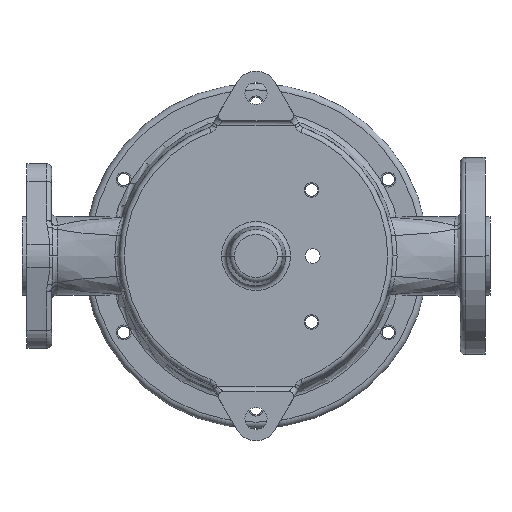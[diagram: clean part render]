
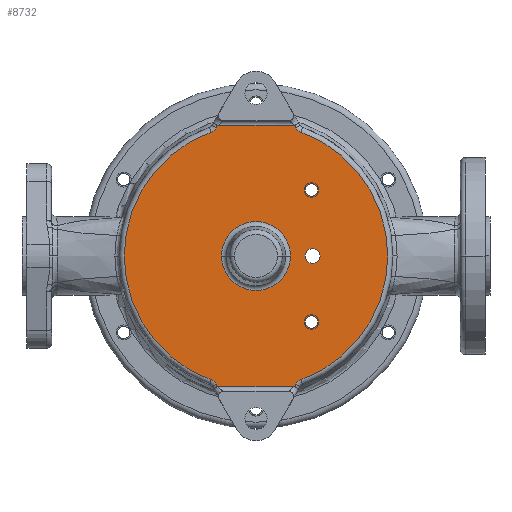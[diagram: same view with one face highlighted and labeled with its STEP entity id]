
A CAD part, left-side view. The second image highlights one B-rep face of the part: STEP entity #8732.
In plain terms, the highlighted planar face has unit normal (-1, 0, 0).
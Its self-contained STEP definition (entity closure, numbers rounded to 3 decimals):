
#1165=CARTESIAN_POINT('',(-55.,0.,0.));
#1166=DIRECTION('',(1.,0.,0.));
#1167=DIRECTION('',(0.,1.,0.));
#1168=AXIS2_PLACEMENT_3D('',#1165,#1166,#1167);
#1170=CARTESIAN_POINT('',(-55.,0.,0.));
#1171=DIRECTION('',(1.,0.,0.));
#1172=DIRECTION('',(0.,-1.,0.));
#1173=AXIS2_PLACEMENT_3D('',#1170,#1171,#1172);
#1175=DIRECTION('',(0.,1.,0.));
#1176=VECTOR('',#1175,31.177);
#1177=CARTESIAN_POINT('',(-55.,-15.588,-53.));
#1178=LINE('',#1177,#1176);
#1179=DIRECTION('',(0.,-0.5,-0.866));
#1180=VECTOR('',#1179,1.088);
#1181=CARTESIAN_POINT('',(-55.,16.133,-52.058));
#1182=LINE('',#1181,#1180);
#1183=CARTESIAN_POINT('',(-55.,19.597,-54.058));
#1184=DIRECTION('',(1.,0.,0.));
#1185=DIRECTION('',(0.,-0.341,0.94));
#1186=AXIS2_PLACEMENT_3D('',#1183,#1184,#1185);
#1188=CARTESIAN_POINT('',(-55.,19.597,54.058));
#1189=DIRECTION('',(1.,0.,0.));
#1190=DIRECTION('',(0.,-0.866,-0.5));
#1191=AXIS2_PLACEMENT_3D('',#1188,#1189,#1190);
#1193=DIRECTION('',(0.,0.5,-0.866));
#1194=VECTOR('',#1193,1.088);
#1195=CARTESIAN_POINT('',(-55.,15.588,53.));
#1196=LINE('',#1195,#1194);
#1197=DIRECTION('',(0.,-1.,0.));
#1198=VECTOR('',#1197,31.177);
#1199=CARTESIAN_POINT('',(-55.,15.588,53.));
#1200=LINE('',#1199,#1198);
#1201=DIRECTION('',(0.,0.5,0.866));
#1202=VECTOR('',#1201,1.088);
#1203=CARTESIAN_POINT('',(-55.,-16.133,52.058));
#1204=LINE('',#1203,#1202);
#1205=CARTESIAN_POINT('',(-55.,-19.597,54.058));
#1206=DIRECTION('',(1.,0.,0.));
#1207=DIRECTION('',(0.,0.341,-0.94));
#1208=AXIS2_PLACEMENT_3D('',#1205,#1206,#1207);
#1210=CARTESIAN_POINT('',(-55.,-19.597,-54.058));
#1211=DIRECTION('',(1.,0.,0.));
#1212=DIRECTION('',(0.,0.866,0.5));
#1213=AXIS2_PLACEMENT_3D('',#1210,#1211,#1212);
#1215=DIRECTION('',(0.,-0.5,0.866));
#1216=VECTOR('',#1215,1.088);
#1217=CARTESIAN_POINT('',(-55.,-15.588,-53.));
#1218=LINE('',#1217,#1216);
#1219=CARTESIAN_POINT('',(-55.,-22.498,-26.812));
#1220=DIRECTION('',(-1.,0.,0.));
#1221=DIRECTION('',(0.,1.,0.));
#1222=AXIS2_PLACEMENT_3D('',#1219,#1220,#1221);
#1224=CARTESIAN_POINT('',(-55.,-22.498,-26.812));
#1225=DIRECTION('',(-1.,0.,0.));
#1226=DIRECTION('',(0.,-1.,0.));
#1227=AXIS2_PLACEMENT_3D('',#1224,#1225,#1226);
#1229=CARTESIAN_POINT('',(-55.,-22.498,26.812));
#1230=DIRECTION('',(-1.,0.,0.));
#1231=DIRECTION('',(0.,-0.174,-0.985));
#1232=AXIS2_PLACEMENT_3D('',#1229,#1230,#1231);
#1234=CARTESIAN_POINT('',(-55.,-22.498,26.812));
#1235=DIRECTION('',(-1.,0.,0.));
#1236=DIRECTION('',(0.,0.174,0.985));
#1237=AXIS2_PLACEMENT_3D('',#1234,#1235,#1236);
#1239=CARTESIAN_POINT('',(-55.,-23.,0.));
#1240=DIRECTION('',(1.,0.,0.));
#1241=DIRECTION('',(0.,1.,0.));
#1242=AXIS2_PLACEMENT_3D('',#1239,#1240,#1241);
#1244=CARTESIAN_POINT('',(-55.,-23.,0.));
#1245=DIRECTION('',(1.,0.,0.));
#1246=DIRECTION('',(0.,-1.,0.));
#1247=AXIS2_PLACEMENT_3D('',#1244,#1245,#1246);
#1396=CARTESIAN_POINT('',(-55.,0.,0.));
#1397=DIRECTION('',(-1.,0.,0.));
#1398=DIRECTION('',(0.,-0.341,-0.94));
#1399=AXIS2_PLACEMENT_3D('',#1396,#1397,#1398);
#1590=CARTESIAN_POINT('',(-55.,0.,0.));
#1591=DIRECTION('',(-1.,0.,0.));
#1592=DIRECTION('',(0.,0.341,0.94));
#1593=AXIS2_PLACEMENT_3D('',#1590,#1591,#1592);
#6233=CARTESIAN_POINT('',(-55.,-20.,0.));
#6234=CARTESIAN_POINT('',(-55.,-26.,0.));
#6235=VERTEX_POINT('',#6233);
#6236=VERTEX_POINT('',#6234);
#6241=CARTESIAN_POINT('',(-55.,-19.998,-26.812));
#6242=CARTESIAN_POINT('',(-55.,-24.998,-26.812));
#6243=VERTEX_POINT('',#6241);
#6244=VERTEX_POINT('',#6242);
#6249=CARTESIAN_POINT('',(-55.,-22.932,24.35));
#6250=CARTESIAN_POINT('',(-55.,-22.063,29.274));
#6251=VERTEX_POINT('',#6249);
#6252=VERTEX_POINT('',#6250);
#6277=CARTESIAN_POINT('',(-55.,13.995,0.));
#6278=CARTESIAN_POINT('',(-55.,-13.995,0.));
#6279=VERTEX_POINT('',#6277);
#6280=VERTEX_POINT('',#6278);
#6281=CARTESIAN_POINT('',(-55.,-15.588,-53.));
#6282=CARTESIAN_POINT('',(-55.,15.588,-53.));
#6283=VERTEX_POINT('',#6281);
#6284=VERTEX_POINT('',#6282);
#6293=CARTESIAN_POINT('',(-55.,16.133,-52.058));
#6294=VERTEX_POINT('',#6293);
#6295=CARTESIAN_POINT('',(-55.,18.233,-50.297));
#6296=VERTEX_POINT('',#6295);
#6303=CARTESIAN_POINT('',(-55.,16.133,52.058));
#6304=CARTESIAN_POINT('',(-55.,18.233,50.297));
#6305=VERTEX_POINT('',#6303);
#6306=VERTEX_POINT('',#6304);
#6309=CARTESIAN_POINT('',(-55.,15.588,53.));
#6310=VERTEX_POINT('',#6309);
#6313=CARTESIAN_POINT('',(-55.,-15.588,53.));
#6314=VERTEX_POINT('',#6313);
#6319=CARTESIAN_POINT('',(-55.,-16.133,-52.058));
#6320=VERTEX_POINT('',#6319);
#6325=CARTESIAN_POINT('',(-55.,-18.233,-50.297));
#6326=VERTEX_POINT('',#6325);
#6333=CARTESIAN_POINT('',(-55.,-18.233,50.297));
#6334=CARTESIAN_POINT('',(-55.,-16.133,52.058));
#6335=VERTEX_POINT('',#6333);
#6336=VERTEX_POINT('',#6334);
#8678=CARTESIAN_POINT('',(-55.,0.,0.));
#8679=DIRECTION('',(1.,0.,0.));
#8680=DIRECTION('',(0.,-1.,0.));
#8681=AXIS2_PLACEMENT_3D('',#8678,#8679,#8680);
#8682=PLANE('',#8681);
#8684=ORIENTED_EDGE('',*,*,#8683,.T.);
#8686=ORIENTED_EDGE('',*,*,#8685,.F.);
#8688=ORIENTED_EDGE('',*,*,#8687,.F.);
#8690=ORIENTED_EDGE('',*,*,#8689,.F.);
#8692=ORIENTED_EDGE('',*,*,#8691,.F.);
#8694=ORIENTED_EDGE('',*,*,#8693,.F.);
#8696=ORIENTED_EDGE('',*,*,#8695,.T.);
#8698=ORIENTED_EDGE('',*,*,#8697,.F.);
#8700=ORIENTED_EDGE('',*,*,#8699,.F.);
#8702=ORIENTED_EDGE('',*,*,#8701,.F.);
#8704=ORIENTED_EDGE('',*,*,#8703,.F.);
#8706=ORIENTED_EDGE('',*,*,#8705,.F.);
#8707=EDGE_LOOP('',(#8684,#8686,#8688,#8690,#8692,#8694,#8696,#8698,#8700,#8702,
#8704,#8706));
#8708=FACE_OUTER_BOUND('',#8707,.F.);
#8710=ORIENTED_EDGE('',*,*,#8709,.F.);
#8712=ORIENTED_EDGE('',*,*,#8711,.F.);
#8713=EDGE_LOOP('',(#8710,#8712));
#8714=FACE_BOUND('',#8713,.F.);
#8715=ORIENTED_EDGE('',*,*,#8668,.T.);
#8717=ORIENTED_EDGE('',*,*,#8716,.T.);
#8718=EDGE_LOOP('',(#8715,#8717));
#8719=FACE_BOUND('',#8718,.F.);
#8721=ORIENTED_EDGE('',*,*,#8720,.T.);
#8723=ORIENTED_EDGE('',*,*,#8722,.T.);
#8724=EDGE_LOOP('',(#8721,#8723));
#8725=FACE_BOUND('',#8724,.F.);
#8727=ORIENTED_EDGE('',*,*,#8726,.F.);
#8729=ORIENTED_EDGE('',*,*,#8728,.F.);
#8730=EDGE_LOOP('',(#8727,#8729));
#8731=FACE_BOUND('',#8730,.F.);
#8732=ADVANCED_FACE('',(#8708,#8714,#8719,#8725,#8731),#8682,.F.);
#1169=CIRCLE('',#1168,13.995);
#1174=CIRCLE('',#1173,13.995);
#1187=CIRCLE('',#1186,4.);
#1192=CIRCLE('',#1191,4.);
#1209=CIRCLE('',#1208,4.);
#1214=CIRCLE('',#1213,4.);
#1223=CIRCLE('',#1222,2.5);
#1228=CIRCLE('',#1227,2.5);
#1233=CIRCLE('',#1232,2.5);
#1238=CIRCLE('',#1237,2.5);
#1243=CIRCLE('',#1242,3.);
#1248=CIRCLE('',#1247,3.);
#1400=CIRCLE('',#1399,53.5);
#1594=CIRCLE('',#1593,53.5);
#8668=EDGE_CURVE('',#6243,#6244,#1223,.T.);
#8683=EDGE_CURVE('',#6283,#6284,#1178,.T.);
#8685=EDGE_CURVE('',#6294,#6284,#1182,.T.);
#8687=EDGE_CURVE('',#6296,#6294,#1187,.T.);
#8689=EDGE_CURVE('',#6306,#6296,#1594,.T.);
#8691=EDGE_CURVE('',#6305,#6306,#1192,.T.);
#8693=EDGE_CURVE('',#6310,#6305,#1196,.T.);
#8695=EDGE_CURVE('',#6310,#6314,#1200,.T.);
#8697=EDGE_CURVE('',#6336,#6314,#1204,.T.);
#8699=EDGE_CURVE('',#6335,#6336,#1209,.T.);
#8701=EDGE_CURVE('',#6326,#6335,#1400,.T.);
#8703=EDGE_CURVE('',#6320,#6326,#1214,.T.);
#8705=EDGE_CURVE('',#6283,#6320,#1218,.T.);
#8709=EDGE_CURVE('',#6279,#6280,#1169,.T.);
#8711=EDGE_CURVE('',#6280,#6279,#1174,.T.);
#8716=EDGE_CURVE('',#6244,#6243,#1228,.T.);
#8720=EDGE_CURVE('',#6251,#6252,#1233,.T.);
#8722=EDGE_CURVE('',#6252,#6251,#1238,.T.);
#8726=EDGE_CURVE('',#6235,#6236,#1243,.T.);
#8728=EDGE_CURVE('',#6236,#6235,#1248,.T.);
